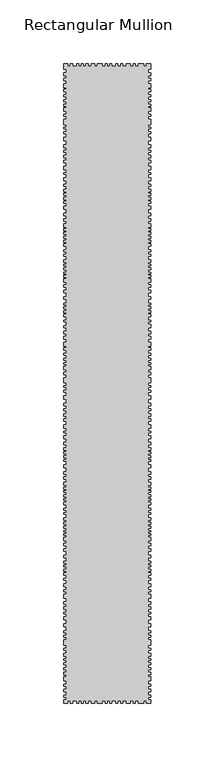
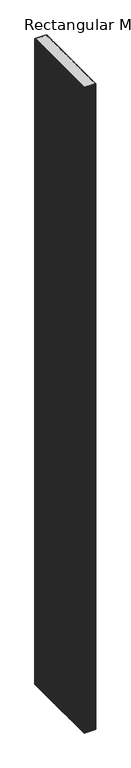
"""IFC4 building model written with IfcOpenShell, lengths in millimetres: member geometry, Rectangular Mullion : DucoSun Cubic Design louvre 500."""

from ifc_helpers import new_model, si_unit, frame, origin, place, context, project, spatial, polyline, outline, extrude, source, transform, mapped, element, save


def rectangular_mullion_fd81fceb(model_context):
    return source(origin(), model_context, "Body", "SweptSolid", [
        extrude(outline(polyline([(34.0, -497.3782451), (34.0, -500.0), (30.4544414, -500.0), (30.4544414, -498.0), (28.627942, -498.0), (28.627942, -500.0), (23.9842994, -500.0), (23.9842994, -498.0), (21.8172663, -498.0), (21.8172663, -500.0), (20.3003431, -500.0), (20.3003431, -498.0), (17.9475642, -498.0), (17.9475642, -500.0), (14.8827601, -500.0), (14.8827601, -498.0), (12.0965746, -498.0), (12.0965746, -500.0), (10.3939057, -500.0), (10.3939057, -498.0), (8.0101692, -498.0), (8.0101692, -500.0), (6.5242036, -500.0), (6.5242036, -498.0), (3.4884678, -498.0), (3.4884678, -500.0), (1.7094289, -500.0), (1.7094289, -498.0), (0.0, -498.0), (0.0, -500.0), (-1.8486488, -500.0), (-1.8486488, -498.0), (-4.2128978, -498.0), (-4.2128978, -500.0), (-7.9816511, -500.0), (-7.9816511, -498.0), (-10.0415908, -498.0), (-10.0415908, -500.0), (-12.7335575, -500.0), (-12.7335575, -498.0), (-15.0041729, -498.0), (-15.0041729, -500.0), (-16.8768453, -500.0), (-16.8768453, -498.0), (-18.9367851, -498.0), (-18.9367851, -500.0), (-20.2710642, -500.0), (-20.2710642, -498.0), (-22.3075955, -498.0), (-22.3075955, -500.0), (-23.8993671, -500.0), (-23.8993671, -498.0), (-26.9658683, -498.0), (-26.9658683, -500.0), (-28.9321744, -500.0), (-28.9321744, -498.0), (-30.8750721, -498.0), (-30.8750721, -500.0), (-34.0, -500.0), (-34.0, -497.3782451), (-32.0, -497.3782451), (-32.0, -495.4241521), (-34.0, -495.4241521), (-34.0, -493.6532553), (-32.0, -493.6532553), (-32.0, -490.9460223), (-34.0, -490.9460223), (-34.0, -488.9105087), (-32.0, -488.9105087), (-32.0, -486.7121541), (-34.0, -486.7121541), (-34.0, -485.0023227), (-32.0, -485.0023227), (-32.0, -482.3561551), (-34.0, -482.3561551), (-34.0, -479.3843053), (-32.0, -479.3843053), (-32.0, -477.8917893), (-34.0, -477.8917893), (-34.0, -475.8425117), (-32.0, -475.8425117), (-32.0, -473.8680636), (-34.0, -473.8680636), (-34.0, -472.1582322), (-32.0, -472.1582322), (-32.0, -470.0820083), (-34.0, -470.0820083), (-34.0, -468.3111116), (-32.0, -468.3111116), (-32.0, -466.4995045), (-34.0, -466.4995045), (-34.0, -465.0713495), (-32.0, -465.0713495), (-32.0, -463.4577392), (-34.0, -463.4577392), (-34.0, -461.0328231), (-32.0, -461.0328231), (-32.0, -458.5725067), (-34.0, -458.5725067), (-34.0, -457.0325964), (-32.0, -457.0325964), (-32.0, -454.5014796), (-34.0, -454.5014796), (-34.0, -450.4127524), (-32.0, -450.4127524), (-32.0, -448.4126391), (-34.0, -448.4126391), (-34.0, -446.8373286), (-32.0, -446.8373286), (-32.0, -444.9965163), (-34.0, -444.9965163), (-34.0, -443.3504053), (-32.0, -443.3504053), (-32.0, -440.3767855), (-34.0, -440.3767855), (-34.0, -437.9545244), (-32.0, -437.9545244), (-32.0, -434.5552168), (-34.0, -434.5552168), (-34.0, -432.5197032), (-32.0, -432.5197032), (-32.0, -430.239928), (-34.0, -430.239928), (-34.0, -428.6929377), (-32.0, -428.6929377), (-32.0, -426.4335177), (-34.0, -426.4335177), (-34.0, -424.5608452), (-32.0, -424.5608452), (-32.0, -422.6271073), (-34.0, -422.6271073), (-34.0, -420.5508835), (-32.0, -420.5508835), (-32.0, -418.0064916), (-34.0, -418.0064916), (-34.0, -414.9328661), (-32.0, -414.9328661), (-32.0, -412.9177077), (-34.0, -412.9177077), (-34.0, -411.4114277), (-32.0, -411.4114277), (-32.0, -408.9688114), (-34.0, -408.9688114), (-34.0, -406.7118273), (-32.0, -406.7118273), (-32.0, -403.8852623), (-34.0, -403.8852623), (-34.0, -402.4316003), (-32.0, -402.4316003), (-32.0, -399.9011516), (-34.0, -399.9011516), (-34.0, -397.8552569), (-32.0, -397.8552569), (-32.0, -396.6169522), (-34.0, -396.6169522), (-34.0, -395.0825312), (-32.0, -395.0825312), (-32.0, -393.4673512), (-34.0, -393.4673512), (-34.0, -392.0675286), (-32.0, -392.0675286), (-32.0, -390.5869469), (-34.0, -390.5869469), (-34.0, -389.1602046), (-32.0, -389.1602046), (-32.0, -386.3310055), (-34.0, -386.3310055), (-34.0, -384.2608252), (-32.0, -384.2608252), (-32.0, -381.1919832), (-34.0, -381.1919832), (-34.0, -379.2537672), (-32.0, -379.2537672), (-32.0, -376.9360418), (-34.0, -376.9360418), (-34.0, -375.0004598), (-32.0, -375.0004598), (-32.0, -372.9007258), (-34.0, -372.9007258), (-34.0, -370.1010805), (-32.0, -370.1010805), (-32.0, -368.8089365), (-34.0, -368.8089365), (-34.0, -367.3014351), (-32.0, -367.3014351), (-32.0, -366.0362108), (-34.0, -366.0362108), (-34.0, -365.0401831), (-32.0, -365.0401831), (-32.0, -363.2096458), (-34.0, -363.2096458), (-34.0, -361.6483051), (-32.0, -361.6483051), (-32.0, -360.1408038), (-34.0, -360.1408038), (-34.0, -358.6063828), (-32.0, -358.6063828), (-32.0, -357.0719618), (-34.0, -357.0719618), (-34.0, -355.0799064), (-32.0, -355.0799064), (-32.0, -352.3762692), (-34.0, -352.3762692), (-34.0, -350.8903036), (-32.0, -350.8903036), (-32.0, -349.1257194), (-34.0, -349.1257194), (-34.0, -347.6087962), (-32.0, -347.6087962), (-32.0, -344.8535683), (-34.0, -344.8535683), (-34.0, -342.7484504), (-32.0, -342.7484504), (-32.0, -341.4172729), (-34.0, -341.4172729), (-34.0, -339.9622649), (-32.0, -339.9622649), (-32.0, -338.3524688), (-34.0, -338.3524688), (-34.0, -336.8355456), (-32.0, -336.8355456), (-32.0, -335.1947919), (-34.0, -335.1947919), (-34.0, -333.9255296), (-32.0, -333.9255296), (-32.0, -332.5014792), (-34.0, -332.5014792), (-34.0, -331.1083865), (-32.0, -331.1083865), (-32.0, -329.6843361), (-34.0, -329.6843361), (-34.0, -327.0529387), (-32.0, -327.0529387), (-32.0, -324.9787784), (-34.0, -324.9787784), (-34.0, -323.0284485), (-32.0, -323.0284485), (-32.0, -320.7995001), (-34.0, -320.7995001), (-34.0, -318.8182126), (-32.0, -318.8182126), (-32.0, -315.6914933), (-34.0, -315.6914933), (-34.0, -313.4935025), (-32.0, -313.4935025), (-32.0, -310.954978), (-34.0, -310.954978), (-34.0, -309.4070971), (-32.0, -309.4070971), (-32.0, -308.1378348), (-34.0, -308.1378348), (-34.0, -306.4970812), (-32.0, -306.4970812), (-32.0, -304.8253698), (-34.0, -304.8253698), (-34.0, -303.3394042), (-32.0, -303.3394042), (-32.0, -302.0391843), (-34.0, -302.0391843), (-34.0, -300.0578969), (-32.0, -300.0578969), (-32.0, -297.6741604), (-34.0, -297.6741604), (-34.0, -296.0953219), (-32.0, -296.0953219), (-32.0, -293.3091364), (-34.0, -293.3091364), (-34.0, -291.0182728), (-32.0, -291.0182728), (-32.0, -288.572621), (-34.0, -288.572621), (-34.0, -287.1485707), (-32.0, -287.1485707), (-32.0, -285.0124951), (-34.0, -285.0124951), (-34.0, -282.1643944), (-32.0, -282.1643944), (-32.0, -279.3782089), (-34.0, -279.3782089), (-34.0, -277.427879), (-32.0, -277.427879), (-32.0, -275.4156339), (-34.0, -275.4156339), (-34.0, -273.6510498), (-32.0, -273.6510498), (-32.0, -271.1744404), (-34.0, -271.1744404), (-34.0, -269.6884748), (-32.0, -269.6884748), (-32.0, -267.5523993), (-34.0, -267.5523993), (-34.0, -265.4163237), (-32.0, -265.4163237), (-32.0, -262.1967316), (-34.0, -262.1967316), (-34.0, -259.5343765), (-32.0, -259.5343765), (-32.0, -256.7791486), (-34.0, -256.7791486), (-34.0, -255.0764797), (-32.0, -255.0764797), (-32.0, -252.9404041), (-34.0, -252.9404041), (-34.0, -251.6092266), (-32.0, -251.6092266), (-32.0, -249.5660239), (-34.0, -249.5660239), (-34.0, -245.512038), (-32.0, -245.512038), (-32.0, -243.0030092), (-34.0, -243.0030092), (-34.0, -241.3312979), (-32.0, -241.3312979), (-32.0, -239.0404342), (-34.0, -239.0404342), (-34.0, -236.5638249), (-32.0, -236.5638249), (-32.0, -235.015944), (-34.0, -235.015944), (-34.0, -233.5609361), (-32.0, -233.5609361), (-32.0, -231.5796486), (-34.0, -231.5796486), (-34.0, -230.0627254), (-32.0, -230.0627254), (-32.0, -227.8337769), (-34.0, -227.8337769), (-34.0, -226.1620656), (-32.0, -226.1620656), (-32.0, -224.0259901), (-34.0, -224.0259901), (-34.0, -222.0756602), (-32.0, -222.0756602), (-32.0, -220.6516099), (-34.0, -220.6516099), (-34.0, -217.7415939), (-32.0, -217.7415939), (-32.0, -215.2030693), (-34.0, -215.2030693), (-34.0, -213.1908242), (-32.0, -213.1908242), (-32.0, -211.2404944), (-34.0, -211.2404944), (-34.0, -209.1353764), (-32.0, -209.1353764), (-32.0, -206.2563181), (-34.0, -206.2563181), (-34.0, -204.6155644), (-32.0, -204.6155644), (-32.0, -201.7889994), (-34.0, -201.7889994), (-34.0, -200.3353374), (-32.0, -200.3353374), (-32.0, -197.8048887), (-34.0, -197.8048887), (-34.0, -195.758994), (-32.0, -195.758994), (-32.0, -194.5206893), (-34.0, -194.5206893), (-34.0, -192.9862683), (-32.0, -192.9862683), (-32.0, -191.3710883), (-34.0, -191.3710883), (-34.0, -189.9712657), (-32.0, -189.9712657), (-32.0, -188.490684), (-34.0, -188.490684), (-34.0, -187.0639417), (-32.0, -187.0639417), (-32.0, -184.2347426), (-34.0, -184.2347426), (-34.0, -182.1645623), (-32.0, -182.1645623), (-32.0, -179.0957203), (-34.0, -179.0957203), (-34.0, -177.1575043), (-32.0, -177.1575043), (-32.0, -174.8397789), (-34.0, -174.8397789), (-34.0, -172.9041969), (-32.0, -172.9041969), (-32.0, -170.8044629), (-34.0, -170.8044629), (-34.0, -168.0048176), (-32.0, -168.0048176), (-32.0, -166.7126736), (-34.0, -166.7126736), (-34.0, -165.2051722), (-32.0, -165.2051722), (-32.0, -163.9399479), (-34.0, -163.9399479), (-34.0, -162.9439202), (-32.0, -162.9439202), (-32.0, -161.1133829), (-34.0, -161.1133829), (-34.0, -159.5520422), (-32.0, -159.5520422), (-32.0, -158.0445409), (-34.0, -158.0445409), (-34.0, -156.5101199), (-32.0, -156.5101199), (-32.0, -154.9756989), (-34.0, -154.9756989), (-34.0, -152.9836435), (-32.0, -152.9836435), (-32.0, -150.2800063), (-34.0, -150.2800063), (-34.0, -148.7940407), (-32.0, -148.7940407), (-32.0, -147.0294565), (-34.0, -147.0294565), (-34.0, -145.5125333), (-32.0, -145.5125333), (-32.0, -142.7573054), (-34.0, -142.7573054), (-34.0, -140.6521875), (-32.0, -140.6521875), (-32.0, -139.32101), (-34.0, -139.32101), (-34.0, -137.866002), (-32.0, -137.866002), (-32.0, -136.2562059), (-34.0, -136.2562059), (-34.0, -134.7392827), (-32.0, -134.7392827), (-32.0, -133.098529), (-34.0, -133.098529), (-34.0, -131.8292667), (-32.0, -131.8292667), (-32.0, -130.4052163), (-34.0, -130.4052163), (-34.0, -129.0121236), (-32.0, -129.0121236), (-32.0, -127.5880732), (-34.0, -127.5880732), (-34.0, -124.9566758), (-32.0, -124.9566758), (-32.0, -122.8825155), (-34.0, -122.8825155), (-34.0, -120.9321856), (-32.0, -120.9321856), (-32.0, -118.7032372), (-34.0, -118.7032372), (-34.0, -116.7219497), (-32.0, -116.7219497), (-32.0, -113.5952304), (-34.0, -113.5952304), (-34.0, -111.3972396), (-32.0, -111.3972396), (-32.0, -108.8587151), (-34.0, -108.8587151), (-34.0, -107.3108342), (-32.0, -107.3108342), (-32.0, -106.0415719), (-34.0, -106.0415719), (-34.0, -104.4008183), (-32.0, -104.4008183), (-32.0, -102.7291069), (-34.0, -102.7291069), (-34.0, -101.2431413), (-32.0, -101.2431413), (-32.0, -99.9429214), (-34.0, -99.9429214), (-34.0, -97.961634), (-32.0, -97.961634), (-32.0, -95.5778975), (-34.0, -95.5778975), (-34.0, -93.999059), (-32.0, -93.999059), (-32.0, -91.2128735), (-34.0, -91.2128735), (-34.0, -88.9220099), (-32.0, -88.9220099), (-32.0, -86.4763581), (-34.0, -86.4763581), (-34.0, -85.0523078), (-32.0, -85.0523078), (-32.0, -82.9162322), (-34.0, -82.9162322), (-34.0, -80.0681315), (-32.0, -80.0681315), (-32.0, -77.281946), (-34.0, -77.281946), (-34.0, -75.3316161), (-32.0, -75.3316161), (-32.0, -73.319371), (-34.0, -73.319371), (-34.0, -71.5547869), (-32.0, -71.5547869), (-32.0, -69.0781775), (-34.0, -69.0781775), (-34.0, -67.5922119), (-32.0, -67.5922119), (-32.0, -65.4561364), (-34.0, -65.4561364), (-34.0, -63.3200608), (-32.0, -63.3200608), (-32.0, -60.1004687), (-34.0, -60.1004687), (-34.0, -57.4381136), (-32.0, -57.4381136), (-32.0, -54.6828857), (-34.0, -54.6828857), (-34.0, -52.9802168), (-32.0, -52.9802168), (-32.0, -50.8441412), (-34.0, -50.8441412), (-34.0, -49.5129637), (-32.0, -49.5129637), (-32.0, -47.469761), (-34.0, -47.469761), (-34.0, -43.4157751), (-32.0, -43.4157751), (-32.0, -40.9067463), (-34.0, -40.9067463), (-34.0, -39.235035), (-32.0, -39.235035), (-32.0, -36.9441713), (-34.0, -36.9441713), (-34.0, -34.467562), (-32.0, -34.467562), (-32.0, -32.9196811), (-34.0, -32.9196811), (-34.0, -31.4646731), (-32.0, -31.4646731), (-32.0, -29.4833857), (-34.0, -29.4833857), (-34.0, -27.9664625), (-32.0, -27.9664625), (-32.0, -25.737514), (-34.0, -25.737514), (-34.0, -24.0658027), (-32.0, -24.0658027), (-32.0, -21.9297272), (-34.0, -21.9297272), (-34.0, -19.9793973), (-32.0, -19.9793973), (-32.0, -18.555347), (-34.0, -18.555347), (-34.0, -15.645331), (-32.0, -15.645331), (-32.0, -13.1068064), (-34.0, -13.1068064), (-34.0, -11.0945613), (-32.0, -11.0945613), (-32.0, -9.1442315), (-34.0, -9.1442315), (-34.0, -7.0391135), (-32.0, -7.0391135), (-32.0, -4.0), (-34.0, -4.0), (-34.0, 0.0), (-30.8750721, 0.0), (-30.8750721, -2.0), (-28.9321744, -2.0), (-28.9321744, 0.0), (-26.9658683, 0.0), (-26.9658683, -2.0), (-23.8993671, -2.0), (-23.8993671, 0.0), (-22.3075955, 0.0), (-22.3075955, -2.0), (-20.2710642, -2.0), (-20.2710642, 0.0), (-18.9367851, 0.0), (-18.9367851, -2.0), (-16.8768453, -2.0), (-16.8768453, 0.0), (-15.0041729, 0.0), (-15.0041729, -2.0), (-12.7335575, -2.0), (-12.7335575, 0.0), (-10.0415908, 0.0), (-10.0415908, -2.0), (-7.9816511, -2.0), (-7.9816511, 0.0), (-4.2128978, 0.0), (-4.2128978, -2.0), (-1.8486488, -2.0), (-1.8486488, 0.0), (0.0, 0.0), (0.0, -2.0), (1.7094289, -2.0), (1.7094289, 0.0), (3.4884678, 0.0), (3.4884678, -2.0), (6.5242036, -2.0), (6.5242036, 0.0), (8.0101692, 0.0), (8.0101692, -2.0), (10.3939057, -2.0), (10.3939057, 0.0), (12.0965746, 0.0), (12.0965746, -2.0), (14.8827601, -2.0), (14.8827601, 0.0), (17.9475642, 0.0), (17.9475642, -2.0), (20.3003431, -2.0), (20.3003431, 0.0), (21.8172663, 0.0), (21.8172663, -2.0), (23.9842994, -2.0), (23.9842994, 0.0), (28.627942, 0.0), (28.627942, -2.0), (30.4544414, -2.0), (30.4544414, 0.0), (34.0, 0.0), (34.0, -4.0), (32.0, -4.0), (32.0, -7.0391135), (34.0, -7.0391135), (34.0, -9.1442315), (32.0, -9.1442315), (32.0, -11.0945613), (34.0, -11.0945613), (34.0, -13.1068064), (32.0, -13.1068064), (32.0, -15.645331), (34.0, -15.645331), (34.0, -18.555347), (32.0, -18.555347), (32.0, -19.9793973), (34.0, -19.9793973), (34.0, -21.9297272), (32.0, -21.9297272), (32.0, -24.0658027), (34.0, -24.0658027), (34.0, -25.737514), (32.0, -25.737514), (32.0, -27.9664625), (34.0, -27.9664625), (34.0, -29.4833857), (32.0, -29.4833857), (32.0, -31.4646731), (34.0, -31.4646731), (34.0, -32.9196811), (32.0, -32.9196811), (32.0, -34.467562), (34.0, -34.467562), (34.0, -36.9441713), (32.0, -36.9441713), (32.0, -39.235035), (34.0, -39.235035), (34.0, -40.9067463), (32.0, -40.9067463), (32.0, -43.4157751), (34.0, -43.4157751), (34.0, -47.469761), (32.0, -47.469761), (32.0, -49.5129637), (34.0, -49.5129637), (34.0, -50.8441412), (32.0, -50.8441412), (32.0, -52.9802168), (34.0, -52.9802168), (34.0, -54.6828857), (32.0, -54.6828857), (32.0, -57.4381136), (34.0, -57.4381136), (34.0, -60.1004687), (32.0, -60.1004687), (32.0, -63.3200608), (34.0, -63.3200608), (34.0, -65.4561364), (32.0, -65.4561364), (32.0, -67.5922119), (34.0, -67.5922119), (34.0, -69.0781775), (32.0, -69.0781775), (32.0, -71.5547869), (34.0, -71.5547869), (34.0, -73.319371), (32.0, -73.319371), (32.0, -75.3316161), (34.0, -75.3316161), (34.0, -77.281946), (32.0, -77.281946), (32.0, -80.0681315), (34.0, -80.0681315), (34.0, -82.9162322), (32.0, -82.9162322), (32.0, -85.0523078), (34.0, -85.0523078), (34.0, -86.4763581), (32.0, -86.4763581), (32.0, -88.9220099), (34.0, -88.9220099), (34.0, -91.2128735), (32.0, -91.2128735), (32.0, -93.999059), (34.0, -93.999059), (34.0, -95.5778975), (32.0, -95.5778975), (32.0, -97.961634), (34.0, -97.961634), (34.0, -99.9429214), (32.0, -99.9429214), (32.0, -101.2431413), (34.0, -101.2431413), (34.0, -102.7291069), (32.0, -102.7291069), (32.0, -104.4008183), (34.0, -104.4008183), (34.0, -106.0415719), (32.0, -106.0415719), (32.0, -107.3108342), (34.0, -107.3108342), (34.0, -108.8587151), (32.0, -108.8587151), (32.0, -111.3972396), (34.0, -111.3972396), (34.0, -113.5952304), (32.0, -113.5952304), (32.0, -116.7219497), (34.0, -116.7219497), (34.0, -118.7032372), (32.0, -118.7032372), (32.0, -120.9321856), (34.0, -120.9321856), (34.0, -122.8825155), (32.0, -122.8825155), (32.0, -124.9566758), (34.0, -124.9566758), (34.0, -127.5880732), (32.0, -127.5880732), (32.0, -129.0121236), (34.0, -129.0121236), (34.0, -130.4052163), (32.0, -130.4052163), (32.0, -131.8292667), (34.0, -131.8292667), (34.0, -133.098529), (32.0, -133.098529), (32.0, -134.7392827), (34.0, -134.7392827), (34.0, -136.2562059), (32.0, -136.2562059), (32.0, -137.866002), (34.0, -137.866002), (34.0, -139.32101), (32.0, -139.32101), (32.0, -140.6521875), (34.0, -140.6521875), (34.0, -142.7573054), (32.0, -142.7573054), (32.0, -145.5125333), (34.0, -145.5125333), (34.0, -147.0294565), (32.0, -147.0294565), (32.0, -148.7940407), (34.0, -148.7940407), (34.0, -150.2800063), (32.0, -150.2800063), (32.0, -152.9836435), (34.0, -152.9836435), (34.0, -154.9756989), (32.0, -154.9756989), (32.0, -156.5101199), (34.0, -156.5101199), (34.0, -158.0445409), (32.0, -158.0445409), (32.0, -159.5520422), (34.0, -159.5520422), (34.0, -161.1133829), (32.0, -161.1133829), (32.0, -162.9439202), (34.0, -162.9439202), (34.0, -163.9399479), (32.0, -163.9399479), (32.0, -165.2051722), (34.0, -165.2051722), (34.0, -166.7126736), (32.0, -166.7126736), (32.0, -168.0048176), (34.0, -168.0048176), (34.0, -170.8044629), (32.0, -170.8044629), (32.0, -172.9041969), (34.0, -172.9041969), (34.0, -174.8397789), (32.0, -174.8397789), (32.0, -177.1575043), (34.0, -177.1575043), (34.0, -179.0957203), (32.0, -179.0957203), (32.0, -182.1645623), (34.0, -182.1645623), (34.0, -184.2347426), (32.0, -184.2347426), (32.0, -187.0639417), (34.0, -187.0639417), (34.0, -188.490684), (32.0, -188.490684), (32.0, -189.9712657), (34.0, -189.9712657), (34.0, -191.3710883), (32.0, -191.3710883), (32.0, -192.9862683), (34.0, -192.9862683), (34.0, -194.5206893), (32.0, -194.5206893), (32.0, -195.758994), (34.0, -195.758994), (34.0, -197.8048887), (32.0, -197.8048887), (32.0, -200.3353374), (34.0, -200.3353374), (34.0, -201.7889994), (32.0, -201.7889994), (32.0, -203.7186411), (34.0, -203.7186411), (34.0, -206.2563181), (32.0, -206.2563181), (32.0, -209.1353764), (34.0, -209.1353764), (34.0, -211.2404944), (32.0, -211.2404944), (32.0, -213.1908242), (34.0, -213.1908242), (34.0, -215.2030693), (32.0, -215.2030693), (32.0, -217.7415939), (34.0, -217.7415939), (34.0, -220.6516099), (32.0, -220.6516099), (32.0, -222.0756602), (34.0, -222.0756602), (34.0, -224.0259901), (32.0, -224.0259901), (32.0, -226.1620656), (34.0, -226.1620656), (34.0, -227.8337769), (32.0, -227.8337769), (32.0, -230.0627254), (34.0, -230.0627254), (34.0, -231.5796486), (32.0, -231.5796486), (32.0, -233.5609361), (34.0, -233.5609361), (34.0, -235.015944), (32.0, -235.015944), (32.0, -236.5638249), (34.0, -236.5638249), (34.0, -239.0404342), (32.0, -239.0404342), (32.0, -241.3312979), (34.0, -241.3312979), (34.0, -243.0030092), (32.0, -243.0030092), (32.0, -245.512038), (34.0, -245.512038), (34.0, -249.5660239), (32.0, -249.5660239), (32.0, -251.6092266), (34.0, -251.6092266), (34.0, -252.9404041), (32.0, -252.9404041), (32.0, -255.0764797), (34.0, -255.0764797), (34.0, -256.7791486), (32.0, -256.7791486), (32.0, -259.5343765), (34.0, -259.5343765), (34.0, -262.1967316), (32.0, -262.1967316), (32.0, -265.4163237), (34.0, -265.4163237), (34.0, -267.5523993), (32.0, -267.5523993), (32.0, -269.6884748), (34.0, -269.6884748), (34.0, -271.1744404), (32.0, -271.1744404), (32.0, -273.6510498), (34.0, -273.6510498), (34.0, -275.4156339), (32.0, -275.4156339), (32.0, -277.427879), (34.0, -277.427879), (34.0, -279.3782089), (32.0, -279.3782089), (32.0, -282.1643944), (34.0, -282.1643944), (34.0, -285.0124951), (32.0, -285.0124951), (32.0, -287.1485707), (34.0, -287.1485707), (34.0, -288.572621), (32.0, -288.572621), (32.0, -291.0182728), (34.0, -291.0182728), (34.0, -293.3091364), (32.0, -293.3091364), (32.0, -296.0953219), (34.0, -296.0953219), (34.0, -297.6741604), (32.0, -297.6741604), (32.0, -300.0578969), (34.0, -300.0578969), (34.0, -302.0391843), (32.0, -302.0391843), (32.0, -303.3394042), (34.0, -303.3394042), (34.0, -304.8253698), (32.0, -304.8253698), (32.0, -306.4970812), (34.0, -306.4970812), (34.0, -308.1378348), (32.0, -308.1378348), (32.0, -309.4070971), (34.0, -309.4070971), (34.0, -310.954978), (32.0, -310.954978), (32.0, -313.4935025), (34.0, -313.4935025), (34.0, -315.6914933), (32.0, -315.6914933), (32.0, -318.8182126), (34.0, -318.8182126), (34.0, -320.7995001), (32.0, -320.7995001), (32.0, -323.0284485), (34.0, -323.0284485), (34.0, -324.9787784), (32.0, -324.9787784), (32.0, -327.0529387), (34.0, -327.0529387), (34.0, -329.6843361), (32.0, -329.6843361), (32.0, -331.1083865), (34.0, -331.1083865), (34.0, -332.5014792), (32.0, -332.5014792), (32.0, -333.9255296), (34.0, -333.9255296), (34.0, -335.1947919), (32.0, -335.1947919), (32.0, -336.8355456), (34.0, -336.8355456), (34.0, -338.3524688), (32.0, -338.3524688), (32.0, -339.9622649), (34.0, -339.9622649), (34.0, -341.4172729), (32.0, -341.4172729), (32.0, -342.7484504), (34.0, -342.7484504), (34.0, -344.8535683), (32.0, -344.8535683), (32.0, -347.6087962), (34.0, -347.6087962), (34.0, -349.1257194), (32.0, -349.1257194), (32.0, -350.8903036), (34.0, -350.8903036), (34.0, -352.3762692), (32.0, -352.3762692), (32.0, -355.0799064), (34.0, -355.0799064), (34.0, -357.0719618), (32.0, -357.0719618), (32.0, -358.6063828), (34.0, -358.6063828), (34.0, -360.1408038), (32.0, -360.1408038), (32.0, -361.6483051), (34.0, -361.6483051), (34.0, -363.2096458), (32.0, -363.2096458), (32.0, -365.0401831), (34.0, -365.0401831), (34.0, -366.0362108), (32.0, -366.0362108), (32.0, -367.3014351), (34.0, -367.3014351), (34.0, -368.8089365), (32.0, -368.8089365), (32.0, -370.1010805), (34.0, -370.1010805), (34.0, -372.9007258), (32.0, -372.9007258), (32.0, -375.0004598), (34.0, -375.0004598), (34.0, -376.9360418), (32.0, -376.9360418), (32.0, -379.2537672), (34.0, -379.2537672), (34.0, -381.1919832), (32.0, -381.1919832), (32.0, -384.2608252), (34.0, -384.2608252), (34.0, -386.3310055), (32.0, -386.3310055), (32.0, -389.1602046), (34.0, -389.1602046), (34.0, -390.5869469), (32.0, -390.5869469), (32.0, -392.0675286), (34.0, -392.0675286), (34.0, -393.4673512), (32.0, -393.4673512), (32.0, -395.0825312), (34.0, -395.0825312), (34.0, -396.6169522), (32.0, -396.6169522), (32.0, -397.8552569), (34.0, -397.8552569), (34.0, -399.9011516), (32.0, -399.9011516), (32.0, -402.4316003), (34.0, -402.4316003), (34.0, -403.8852623), (32.0, -403.8852623), (32.0, -406.7118273), (34.0, -406.7118273), (34.0, -408.9688114), (32.0, -408.9688114), (32.0, -411.4114277), (34.0, -411.4114277), (34.0, -412.9177077), (32.0, -412.9177077), (32.0, -414.9328661), (34.0, -414.9328661), (34.0, -418.0064916), (32.0, -418.0064916), (32.0, -420.5508835), (34.0, -420.5508835), (34.0, -422.6271073), (32.0, -422.6271073), (32.0, -424.5608452), (34.0, -424.5608452), (34.0, -426.4335177), (32.0, -426.4335177), (32.0, -428.6929377), (34.0, -428.6929377), (34.0, -430.239928), (32.0, -430.239928), (32.0, -432.5197032), (34.0, -432.5197032), (34.0, -434.5552168), (32.0, -434.5552168), (32.0, -437.9545244), (34.0, -437.9545244), (34.0, -440.3767855), (32.0, -440.3767855), (32.0, -443.3504053), (34.0, -443.3504053), (34.0, -444.9965163), (32.0, -444.9965163), (32.0, -446.8373286), (34.0, -446.8373286), (34.0, -448.4126391), (32.0, -448.4126391), (32.0, -450.4127524), (34.0, -450.4127524), (34.0, -454.5014796), (32.0, -454.5014796), (32.0, -457.0325964), (34.0, -457.0325964), (34.0, -458.5725067), (32.0, -458.5725067), (32.0, -461.0328231), (34.0, -461.0328231), (34.0, -463.4577392), (32.0, -463.4577392), (32.0, -465.0713495), (34.0, -465.0713495), (34.0, -466.4995045), (32.0, -466.4995045), (32.0, -468.3111116), (34.0, -468.3111116), (34.0, -470.0820083), (32.0, -470.0820083), (32.0, -472.1582322), (34.0, -472.1582322), (34.0, -473.8680636), (32.0, -473.8680636), (32.0, -475.8425117), (34.0, -475.8425117), (34.0, -477.8917893), (32.0, -477.8917893), (32.0, -479.3843053), (34.0, -479.3843053), (34.0, -482.3561551), (32.0, -482.3561551), (32.0, -485.0023227), (34.0, -485.0023227), (34.0, -486.7121541), (32.0, -486.7121541), (32.0, -488.9105087), (34.0, -488.9105087), (34.0, -490.9460223), (32.0, -490.9460223), (32.0, -493.6532553), (34.0, -493.6532553), (34.0, -495.4241521), (32.0, -495.4241521), (32.0, -497.3782451), (34.0, -497.3782451)])), frame((0.0, 0.0, -4000.0), z_axis=(0.0, 0.0, 1.0), x_axis=(1.0, 0.0, 0.0)), (0.0, 0.0, 1.0), 4000.0),
    ])


if __name__ == "__main__":
    model = new_model("IFC4")
    model_context = context("Model", 3, world=origin())
    ifc_project = project(units=[si_unit("LENGTHUNIT", "METRE", prefix="MILLI")], contexts=[model_context])
    site = spatial("IfcSite", under=ifc_project)
    building = spatial("IfcBuilding", under=site)
    placement = place(None, origin())
    rectangular_mullion_shape = rectangular_mullion_fd81fceb(model_context)
    element("IfcMember", 1, ObjectType="Rectangular Mullion : DucoSun Cubic Design louvre 500", at=placement, inside=building, context=model_context, shape_type="MappedRepresentation", body=[
        mapped(rectangular_mullion_shape, transform((0.0, 0.0, 0.0), x_axis=(1.0, 0.0, 0.0), y_axis=(0.0, 1.0, 0.0), z_axis=(0.0, 0.0, 1.0))),
    ])
    save(model, "model.ifc")
